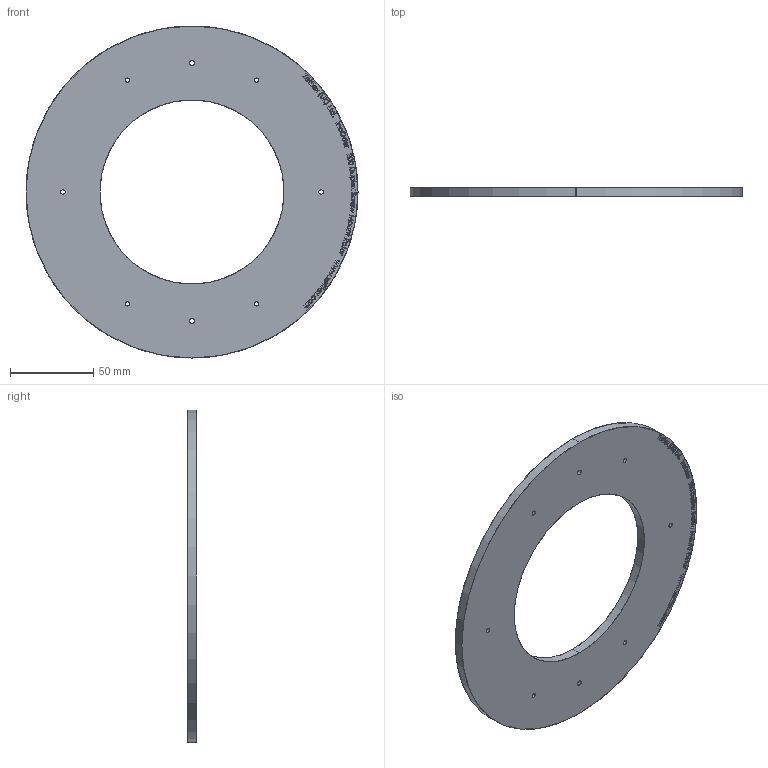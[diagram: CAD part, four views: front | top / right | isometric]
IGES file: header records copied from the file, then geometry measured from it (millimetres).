
Start section: SolidWorks IGES file using analytic representation for surfaces
Global section: file name: C:\Zettlex Data\Mechanical Drawings\1011\200 Duplex Screw Mount Rotor Rev 1-2.IGS; native system: SolidWorks 2015; preprocessor: SolidWorks 2015; author: Nigel; date: 150914.153800; units: millimetre
Bounding box: 200 x 5.6 x 200 mm (x, y, z)
Surface area: 49615.4 mm2 (no closed solid volume)
Topology: 0 solids, 0 shells, 789 faces, 9660 edges, 9660 vertices
Faces by surface type: bspline 757, revolution 32
